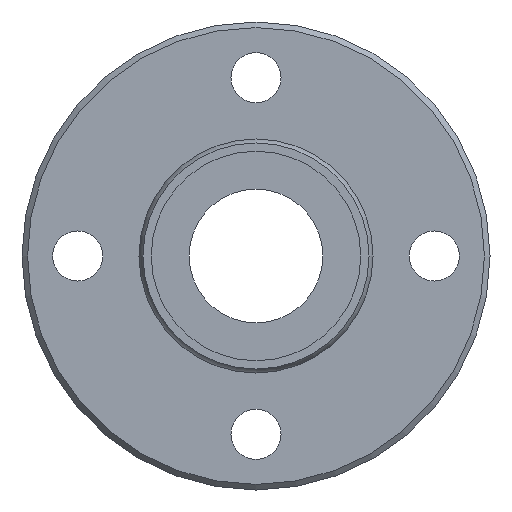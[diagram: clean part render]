
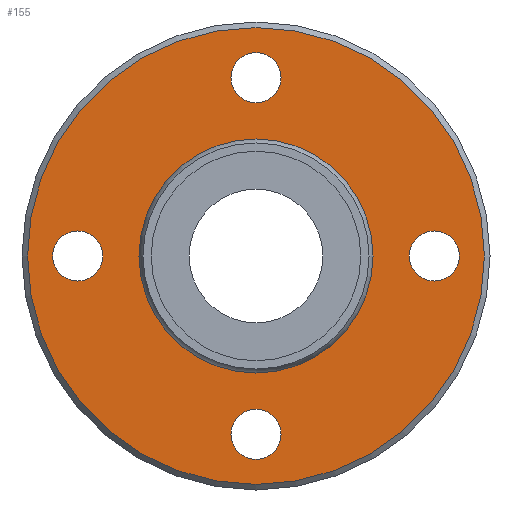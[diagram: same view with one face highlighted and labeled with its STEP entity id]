
A CAD part, left-side view. The second image highlights one B-rep face of the part: STEP entity #155.
In plain terms, the highlighted planar face has unit normal (-1, 0, 0).
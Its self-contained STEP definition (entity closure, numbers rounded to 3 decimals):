
#60=CARTESIAN_POINT('',(6.,0.,20.5));
#61=VERTEX_POINT('',#60);
#62=CARTESIAN_POINT('',(6.,0.0,0.0));
#63=DIRECTION('',(1.0,0.0,0.0));
#64=DIRECTION('',(0.0,0.0,-1.0));
#65=AXIS2_PLACEMENT_3D('',#62,#63,#64);
#66=CIRCLE('',#65,20.5);
#67=EDGE_CURVE('',#61,#61,#66,.T.);
#92=CARTESIAN_POINT('',(6.,0.0,15.643));
#93=DIRECTION('',(-1.0,0.0,0.0));
#94=DIRECTION('',(0.0,0.0,1.0));
#95=AXIS2_PLACEMENT_3D('',#92,#93,#94);
#96=PLANE('',#95);
#97=ORIENTED_EDGE('',*,*,#67,.F.);
#98=EDGE_LOOP('',(#97));
#99=FACE_OUTER_BOUND('',#98,.T.);
#100=CARTESIAN_POINT('',(6.,0.0,10.286));
#101=VERTEX_POINT('',#100);
#102=CARTESIAN_POINT('',(6.,0.0,0.0));
#103=DIRECTION('',(-1.0,0.0,0.0));
#104=DIRECTION('',(0.0,0.0,1.0));
#105=AXIS2_PLACEMENT_3D('',#102,#103,#104);
#106=CIRCLE('',#105,10.286);
#107=EDGE_CURVE('',#101,#101,#106,.T.);
#108=ORIENTED_EDGE('',*,*,#107,.F.);
#109=EDGE_LOOP('',(#108));
#110=FACE_BOUND('',#109,.T.);
#111=CARTESIAN_POINT('',(6.,13.75,0.));
#112=VERTEX_POINT('',#111);
#113=CARTESIAN_POINT('',(6.,16.0,0.));
#114=DIRECTION('',(1.0,0.0,0.0));
#115=DIRECTION('',(0.0,1.0,0.0));
#116=AXIS2_PLACEMENT_3D('',#113,#114,#115);
#117=CIRCLE('',#116,2.25);
#118=EDGE_CURVE('',#112,#112,#117,.T.);
#119=ORIENTED_EDGE('',*,*,#118,.T.);
#120=EDGE_LOOP('',(#119));
#121=FACE_BOUND('',#120,.T.);
#122=CARTESIAN_POINT('',(6.,-18.25,0.));
#123=VERTEX_POINT('',#122);
#124=CARTESIAN_POINT('',(6.,-16.0,0.0));
#125=DIRECTION('',(1.0,0.0,0.0));
#126=DIRECTION('',(0.0,1.0,0.0));
#127=AXIS2_PLACEMENT_3D('',#124,#125,#126);
#128=CIRCLE('',#127,2.25);
#129=EDGE_CURVE('',#123,#123,#128,.T.);
#130=ORIENTED_EDGE('',*,*,#129,.T.);
#131=EDGE_LOOP('',(#130));
#132=FACE_BOUND('',#131,.T.);
#133=CARTESIAN_POINT('',(6.,-2.25,16.0));
#134=VERTEX_POINT('',#133);
#135=CARTESIAN_POINT('',(6.,0.,16.0));
#136=DIRECTION('',(1.0,0.0,0.0));
#137=DIRECTION('',(0.0,1.0,0.0));
#138=AXIS2_PLACEMENT_3D('',#135,#136,#137);
#139=CIRCLE('',#138,2.25);
#140=EDGE_CURVE('',#134,#134,#139,.T.);
#141=ORIENTED_EDGE('',*,*,#140,.T.);
#142=EDGE_LOOP('',(#141));
#143=FACE_BOUND('',#142,.T.);
#144=CARTESIAN_POINT('',(6.,-2.25,-16.0));
#145=VERTEX_POINT('',#144);
#146=CARTESIAN_POINT('',(6.,0.,-16.0));
#147=DIRECTION('',(1.0,0.0,0.0));
#148=DIRECTION('',(0.0,1.0,0.0));
#149=AXIS2_PLACEMENT_3D('',#146,#147,#148);
#150=CIRCLE('',#149,2.25);
#151=EDGE_CURVE('',#145,#145,#150,.T.);
#152=ORIENTED_EDGE('',*,*,#151,.T.);
#153=EDGE_LOOP('',(#152));
#154=FACE_BOUND('',#153,.T.);
#155=ADVANCED_FACE('',(#99,#110,#121,#132,#143,#154),#96,.T.);
